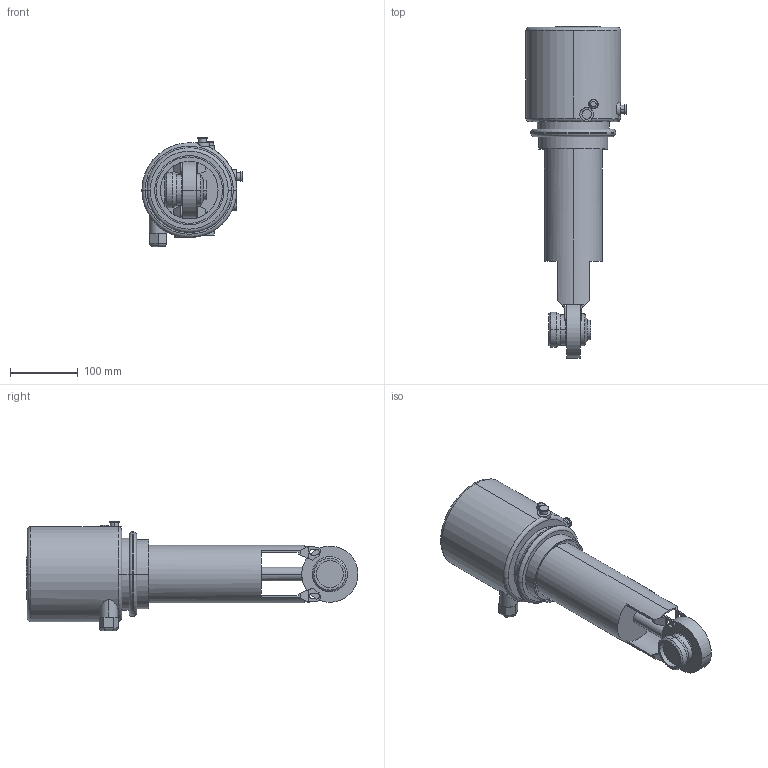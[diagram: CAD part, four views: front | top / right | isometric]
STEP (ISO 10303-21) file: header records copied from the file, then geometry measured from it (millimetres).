
FILE_DESCRIPTION(('Creo Elements/Direct Modeling STEP Export'),'2;1');
FILE_NAME('SV1-25-FZ-CU4-1S2G.stp','2015-10-29T13:16:18',(''),(''),'PTC Creo Elements/Direct Modeling STEP processor for AP214 (Solid Model)','PTC Creo Elements/Direct Modeling 19.0B 21-Mar-2015 (C) Parametric Technology GmbH','');
FILE_SCHEMA(('AUTOMOTIVE_DESIGN { 1 0 10303 214 1 1 1 1 }'));
Length unit declared in the file: millimetre
Products named in the file (3): SV1-25-FZ-1S2G; CU4-T-SPX_logo; SV1-25-FZ-CU4-1S2G
Assembly tree (2 placements, depth 2):
  SV1-25-FZ-CU4-1S2G
    CU4-T-SPX_logo
    SV1-25-FZ-1S2G
Bounding box: 148 x 489.93 x 161.4 mm (x, y, z)
Volume: 3674245.5 mm3; surface area: 215480.5 mm2
Topology: 2 solids, 2 shells, 257 faces, 680 edges, 436 vertices
Faces by surface type: plane 114, cylinder 86, extrusion 33, torus 18, cone 6
Entity records: 11800 total; most frequent: CARTESIAN_POINT 5717, ORIENTED_EDGE 1360, DIRECTION 1108, EDGE_CURVE 680, VERTEX_POINT 436, AXIS2_PLACEMENT_3D 392, VECTOR 324, LINE 291
